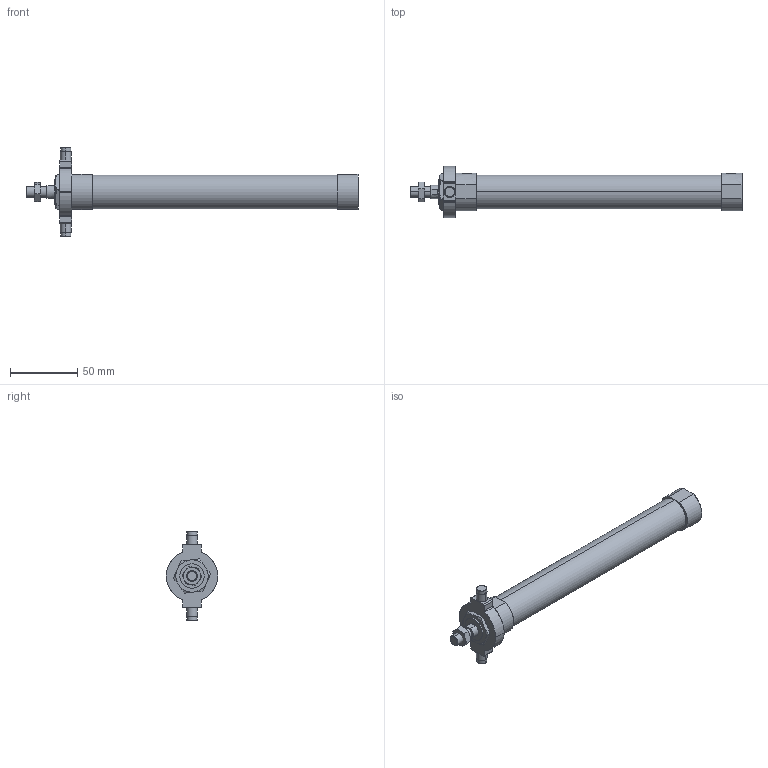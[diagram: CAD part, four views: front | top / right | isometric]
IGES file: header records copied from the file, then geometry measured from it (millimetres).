
Start section: SolidWorks IGES file using analytic representation for surfaces
Global section: file name: C:\Users\Toshiba\Desktop\JGND2-20-150-T.IGS; native system: SolidWorks 2014; preprocessor: SolidWorks 2014; author: Toshiba; date: 160804.103401; units: millimetre
Bounding box: 246 x 38 x 66 mm (x, y, z)
Surface area: 26054.7 mm2 (no closed solid volume)
Topology: 0 solids, 0 shells, 123 faces, 1972 edges, 1972 vertices
Faces by surface type: bspline 68, revolution 55
